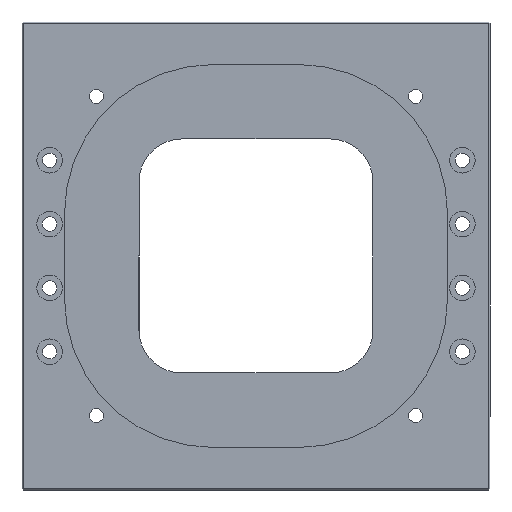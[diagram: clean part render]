
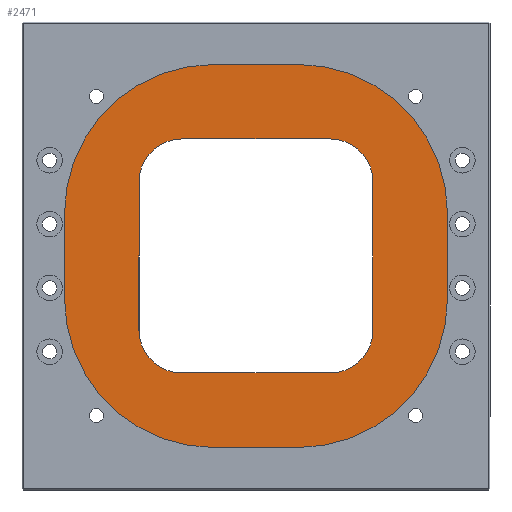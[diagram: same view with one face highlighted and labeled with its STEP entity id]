
A CAD part, front view. The second image highlights one B-rep face of the part: STEP entity #2471.
In plain terms, the highlighted planar face has unit normal (0, -1, 0).
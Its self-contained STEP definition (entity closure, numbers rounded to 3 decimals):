
#18 = CARTESIAN_POINT ( 'NONE',  ( -10., 5., -45. ) ) ;
#31 = LINE ( 'NONE', #1223, #1996 ) ;
#37 = EDGE_CURVE ( 'NONE', #2072, #350, #1289, .T. ) ;
#78 = ORIENTED_EDGE ( 'NONE', *, *, #2968, .T. ) ;
#85 = LINE ( 'NONE', #1275, #3839 ) ;
#88 = AXIS2_PLACEMENT_3D ( 'NONE', #898, #2403, #2938 ) ;
#92 = AXIS2_PLACEMENT_3D ( 'NONE', #1354, #1998, #2847 ) ;
#130 = CARTESIAN_POINT ( 'NONE',  ( -45., 5., -45. ) ) ;
#168 = VERTEX_POINT ( 'NONE', #485 ) ;
#219 = VERTEX_POINT ( 'NONE', #3177 ) ;
#238 = CARTESIAN_POINT ( 'NONE',  ( 45., 5., -45. ) ) ;
#251 = DIRECTION ( 'NONE',  ( 0., 1., 0. ) ) ;
#309 = EDGE_CURVE ( 'NONE', #3301, #1628, #767, .T. ) ;
#320 = AXIS2_PLACEMENT_3D ( 'NONE', #3820, #251, #3248 ) ;
#350 = VERTEX_POINT ( 'NONE', #858 ) ;
#377 = CIRCLE ( 'NONE', #320, 10. ) ;
#469 = EDGE_CURVE ( 'NONE', #219, #168, #1863, .T. ) ;
#485 = CARTESIAN_POINT ( 'NONE',  ( -45., 5., -10. ) ) ;
#492 = CARTESIAN_POINT ( 'NONE',  ( 45., 5., -45. ) ) ;
#495 = DIRECTION ( 'NONE',  ( 0., 0., -1. ) ) ;
#523 = CARTESIAN_POINT ( 'NONE',  ( -27.5, 5., 17.5 ) ) ;
#528 = DIRECTION ( 'NONE',  ( 0., 0., -1. ) ) ;
#532 = CARTESIAN_POINT ( 'NONE',  ( 17.5, 5., 27.5 ) ) ;
#571 = ORIENTED_EDGE ( 'NONE', *, *, #2549, .T. ) ;
#593 = DIRECTION ( 'NONE',  ( 0., -1., 0. ) ) ;
#642 = CARTESIAN_POINT ( 'NONE',  ( -10., 5., 45. ) ) ;
#665 = CIRCLE ( 'NONE', #1716, 10. ) ;
#736 = CARTESIAN_POINT ( 'NONE',  ( 10., 5., 10. ) ) ;
#767 = CIRCLE ( 'NONE', #88, 35. ) ;
#800 = CARTESIAN_POINT ( 'NONE',  ( 27.5, 5., -17.5 ) ) ;
#817 = FACE_OUTER_BOUND ( 'NONE', #3764, .T. ) ;
#858 = CARTESIAN_POINT ( 'NONE',  ( 10., 5., 45. ) ) ;
#880 = ORIENTED_EDGE ( 'NONE', *, *, #1951, .T. ) ;
#898 = CARTESIAN_POINT ( 'NONE',  ( 10., 5., -10. ) ) ;
#908 = CARTESIAN_POINT ( 'NONE',  ( 17.5, 5., -27.5 ) ) ;
#941 = CARTESIAN_POINT ( 'NONE',  ( -17.5, 5., 17.5 ) ) ;
#955 = EDGE_CURVE ( 'NONE', #2435, #2043, #1059, .T. ) ;
#1008 = CIRCLE ( 'NONE', #1570, 35. ) ;
#1021 = EDGE_CURVE ( 'NONE', #2043, #2181, #3400, .T. ) ;
#1059 = LINE ( 'NONE', #2235, #3269 ) ;
#1092 = PLANE ( 'NONE',  #1445 ) ;
#1209 = LINE ( 'NONE', #1229, #2132 ) ;
#1210 = ORIENTED_EDGE ( 'NONE', *, *, #955, .T. ) ;
#1211 = VERTEX_POINT ( 'NONE', #1876 ) ;
#1223 = CARTESIAN_POINT ( 'NONE',  ( 17.5, 5., -27.5 ) ) ;
#1229 = CARTESIAN_POINT ( 'NONE',  ( 45., 5., 45. ) ) ;
#1275 = CARTESIAN_POINT ( 'NONE',  ( 17.5, 5., 27.5 ) ) ;
#1289 = CIRCLE ( 'NONE', #3472, 35. ) ;
#1303 = DIRECTION ( 'NONE',  ( 0., 0., -1. ) ) ;
#1328 = ORIENTED_EDGE ( 'NONE', *, *, #1021, .T. ) ;
#1354 = CARTESIAN_POINT ( 'NONE',  ( 17.5, 5., -17.5 ) ) ;
#1426 = DIRECTION ( 'NONE',  ( 1., 0., 0. ) ) ;
#1445 = AXIS2_PLACEMENT_3D ( 'NONE', #2326, #3787, #528 ) ;
#1449 = DIRECTION ( 'NONE',  ( 0., 0., -1. ) ) ;
#1530 = ORIENTED_EDGE ( 'NONE', *, *, #2955, .T. ) ;
#1547 = ORIENTED_EDGE ( 'NONE', *, *, #469, .T. ) ;
#1570 = AXIS2_PLACEMENT_3D ( 'NONE', #3239, #593, #1449 ) ;
#1623 = VERTEX_POINT ( 'NONE', #2131 ) ;
#1628 = VERTEX_POINT ( 'NONE', #3600 ) ;
#1671 = DIRECTION ( 'NONE',  ( 0., -1., 0. ) ) ;
#1685 = ORIENTED_EDGE ( 'NONE', *, *, #2018, .T. ) ;
#1716 = AXIS2_PLACEMENT_3D ( 'NONE', #3664, #2756, #2525 ) ;
#1751 = DIRECTION ( 'NONE',  ( -1., 0., 0. ) ) ;
#1829 = VECTOR ( 'NONE', #3630, 1000. ) ;
#1863 = LINE ( 'NONE', #130, #1829 ) ;
#1876 = CARTESIAN_POINT ( 'NONE',  ( -17.5, 5., -27.5 ) ) ;
#1899 = EDGE_CURVE ( 'NONE', #2109, #2435, #665, .T. ) ;
#1915 = ORIENTED_EDGE ( 'NONE', *, *, #3558, .T. ) ;
#1947 = CIRCLE ( 'NONE', #3751, 35. ) ;
#1951 = EDGE_CURVE ( 'NONE', #1623, #2109, #85, .T. ) ;
#1978 = ORIENTED_EDGE ( 'NONE', *, *, #37, .T. ) ;
#1986 = DIRECTION ( 'NONE',  ( 0., 0., -1. ) ) ;
#1996 = VECTOR ( 'NONE', #2456, 1000. ) ;
#1998 = DIRECTION ( 'NONE',  ( 0., 1., 0. ) ) ;
#2018 = EDGE_CURVE ( 'NONE', #1628, #2072, #2925, .T. ) ;
#2036 = CARTESIAN_POINT ( 'NONE',  ( 45., 5., 10. ) ) ;
#2043 = VERTEX_POINT ( 'NONE', #800 ) ;
#2072 = VERTEX_POINT ( 'NONE', #2036 ) ;
#2109 = VERTEX_POINT ( 'NONE', #532 ) ;
#2131 = CARTESIAN_POINT ( 'NONE',  ( -17.5, 5., 27.5 ) ) ;
#2132 = VECTOR ( 'NONE', #1751, 1000. ) ;
#2181 = VERTEX_POINT ( 'NONE', #908 ) ;
#2188 = EDGE_CURVE ( 'NONE', #2810, #219, #1008, .T. ) ;
#2223 = VECTOR ( 'NONE', #3481, 1000. ) ;
#2235 = CARTESIAN_POINT ( 'NONE',  ( 27.5, 5., 17.5 ) ) ;
#2326 = CARTESIAN_POINT ( 'NONE',  ( 0., 5., 0. ) ) ;
#2390 = ORIENTED_EDGE ( 'NONE', *, *, #2493, .T. ) ;
#2403 = DIRECTION ( 'NONE',  ( 0., -1., 0. ) ) ;
#2435 = VERTEX_POINT ( 'NONE', #2878 ) ;
#2456 = DIRECTION ( 'NONE',  ( -1., 0., 0. ) ) ;
#2471 = ADVANCED_FACE ( 'NONE', ( #817, #2538 ), #1092, .T. ) ;
#2493 = EDGE_CURVE ( 'NONE', #2625, #3301, #3459, .T. ) ;
#2498 = CARTESIAN_POINT ( 'NONE',  ( -27.5, 5., -17.5 ) ) ;
#2509 = VECTOR ( 'NONE', #3138, 1000. ) ;
#2514 = VERTEX_POINT ( 'NONE', #2614 ) ;
#2517 = DIRECTION ( 'NONE',  ( 0., -1., 0. ) ) ;
#2525 = DIRECTION ( 'NONE',  ( 0., 0., -1. ) ) ;
#2538 = FACE_BOUND ( 'NONE', #3281, .T. ) ;
#2549 = EDGE_CURVE ( 'NONE', #350, #2810, #1209, .T. ) ;
#2614 = CARTESIAN_POINT ( 'NONE',  ( -27.5, 5., 17.5 ) ) ;
#2625 = VERTEX_POINT ( 'NONE', #18 ) ;
#2663 = VERTEX_POINT ( 'NONE', #2498 ) ;
#2717 = EDGE_CURVE ( 'NONE', #2514, #1623, #3444, .T. ) ;
#2756 = DIRECTION ( 'NONE',  ( 0., 1., 0. ) ) ;
#2810 = VERTEX_POINT ( 'NONE', #642 ) ;
#2847 = DIRECTION ( 'NONE',  ( 0., 0., -1. ) ) ;
#2878 = CARTESIAN_POINT ( 'NONE',  ( 27.5, 5., 17.5 ) ) ;
#2911 = ORIENTED_EDGE ( 'NONE', *, *, #2717, .T. ) ;
#2925 = LINE ( 'NONE', #492, #2223 ) ;
#2934 = AXIS2_PLACEMENT_3D ( 'NONE', #941, #3343, #1303 ) ;
#2938 = DIRECTION ( 'NONE',  ( 0., 0., -1. ) ) ;
#2955 = EDGE_CURVE ( 'NONE', #168, #2625, #1947, .T. ) ;
#2968 = EDGE_CURVE ( 'NONE', #2663, #2514, #3727, .T. ) ;
#2984 = ORIENTED_EDGE ( 'NONE', *, *, #2188, .T. ) ;
#3032 = ORIENTED_EDGE ( 'NONE', *, *, #1899, .T. ) ;
#3040 = DIRECTION ( 'NONE',  ( 0., 0., -1. ) ) ;
#3138 = DIRECTION ( 'NONE',  ( 0., 0., 1. ) ) ;
#3177 = CARTESIAN_POINT ( 'NONE',  ( -45., 5., 10. ) ) ;
#3193 = CARTESIAN_POINT ( 'NONE',  ( -10., 5., -10. ) ) ;
#3239 = CARTESIAN_POINT ( 'NONE',  ( -10., 5., 10. ) ) ;
#3248 = DIRECTION ( 'NONE',  ( 0., 0., -1. ) ) ;
#3269 = VECTOR ( 'NONE', #495, 1000. ) ;
#3281 = EDGE_LOOP ( 'NONE', ( #1328, #1915, #3758, #78, #2911, #880, #3032, #1210 ) ) ;
#3301 = VERTEX_POINT ( 'NONE', #3761 ) ;
#3320 = EDGE_CURVE ( 'NONE', #1211, #2663, #377, .T. ) ;
#3343 = DIRECTION ( 'NONE',  ( 0., 1., 0. ) ) ;
#3400 = CIRCLE ( 'NONE', #92, 10. ) ;
#3444 = CIRCLE ( 'NONE', #2934, 10. ) ;
#3459 = LINE ( 'NONE', #238, #3502 ) ;
#3472 = AXIS2_PLACEMENT_3D ( 'NONE', #736, #2517, #3040 ) ;
#3481 = DIRECTION ( 'NONE',  ( 0., 0., 1. ) ) ;
#3502 = VECTOR ( 'NONE', #1426, 1000. ) ;
#3558 = EDGE_CURVE ( 'NONE', #2181, #1211, #31, .T. ) ;
#3600 = CARTESIAN_POINT ( 'NONE',  ( 45., 5., -10. ) ) ;
#3630 = DIRECTION ( 'NONE',  ( 0., 0., -1. ) ) ;
#3664 = CARTESIAN_POINT ( 'NONE',  ( 17.5, 5., 17.5 ) ) ;
#3681 = DIRECTION ( 'NONE',  ( 1., 0., 0. ) ) ;
#3714 = ORIENTED_EDGE ( 'NONE', *, *, #309, .T. ) ;
#3727 = LINE ( 'NONE', #523, #2509 ) ;
#3751 = AXIS2_PLACEMENT_3D ( 'NONE', #3193, #1671, #1986 ) ;
#3758 = ORIENTED_EDGE ( 'NONE', *, *, #3320, .T. ) ;
#3761 = CARTESIAN_POINT ( 'NONE',  ( 10., 5., -45. ) ) ;
#3764 = EDGE_LOOP ( 'NONE', ( #2390, #3714, #1685, #1978, #571, #2984, #1547, #1530 ) ) ;
#3787 = DIRECTION ( 'NONE',  ( 0., -1., 0. ) ) ;
#3820 = CARTESIAN_POINT ( 'NONE',  ( -17.5, 5., -17.5 ) ) ;
#3839 = VECTOR ( 'NONE', #3681, 1000. ) ;
